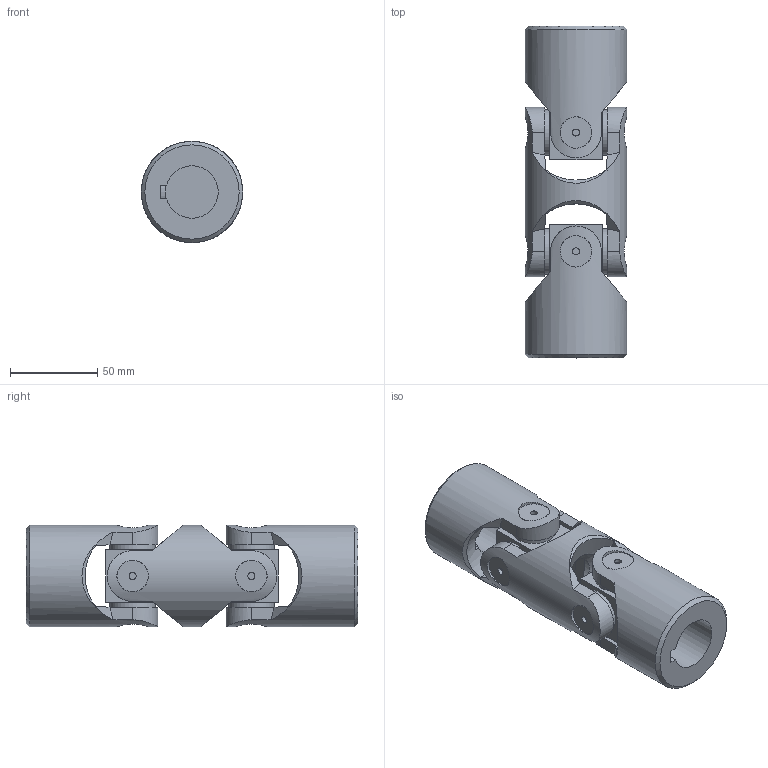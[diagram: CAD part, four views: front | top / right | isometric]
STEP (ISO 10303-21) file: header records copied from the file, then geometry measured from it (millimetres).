
FILE_DESCRIPTION(/* description */ (''),/* implementation_level */ '2;1');
FILE_NAME(/* name */ '\\SRV2016\Societa\Stefano\Disegni 3D\00Catalogo 3D\02Doppi GD-GBD\SG0D302C.stp',/* time_stamp */ '2021-11-23T15:51:39+01:00',/* author */ ('acquisti'),/* organization */ (''),/* preprocessor_version */ 'ST-DEVELOPER v15.6',/* originating_system */ 'Autodesk Inventor 2015',/* authorisation */ '');
FILE_SCHEMA (('AUTOMOTIVE_DESIGN { 1 0 10303 214 3 1 1 }'));
Length unit declared in the file: millimetre
Products named in the file (4): 6G MOD; 6G SFE; 6G MOC; Ø58_6GD-00_SG0D3000
Assembly tree (5 placements, depth 2):
  Ø58_6GD-00_SG0D3000
    6G MOD
    6G SFE  x2
    6G MOC  x2
Bounding box: 58 x 190 x 58 mm (x, y, z)
Volume: 318833.7 mm3; surface area: 71415.9 mm2
Topology: 5 solids, 5 shells, 143 faces, 351 edges, 238 vertices
Faces by surface type: plane 76, cylinder 41, cone 22, torus 4
Full cylindrical faces by diameter (mm): 4 x8, 18 x8, 26 x8, 32 x2, 58 x3
Entity records: 3472 total; most frequent: CARTESIAN_POINT 1276, ORIENTED_EDGE 428, DIRECTION 413, EDGE_CURVE 214, AXIS2_PLACEMENT_3D 178, VERTEX_POINT 162, EDGE_LOOP 140, FACE_OUTER_BOUND 97
